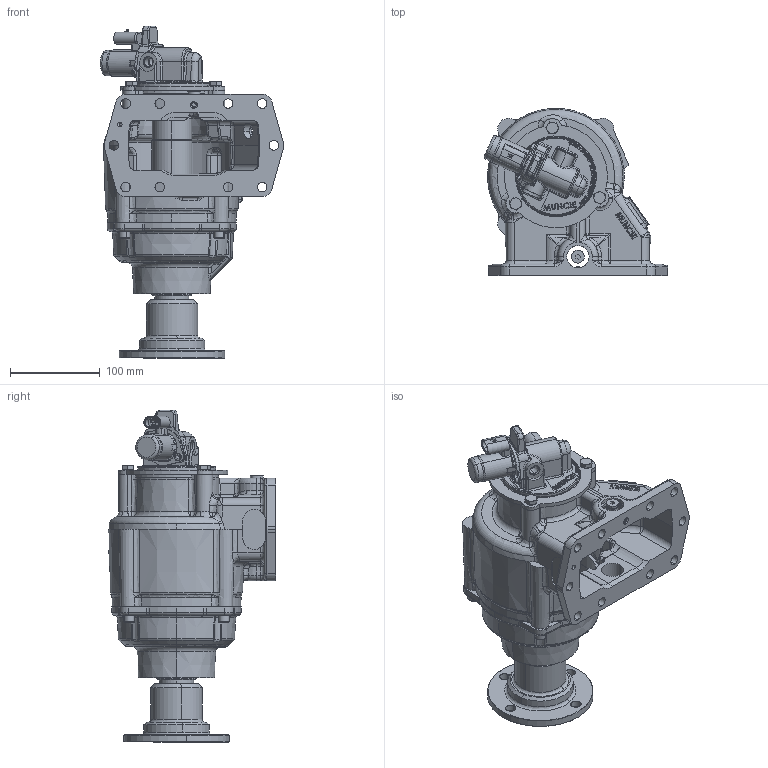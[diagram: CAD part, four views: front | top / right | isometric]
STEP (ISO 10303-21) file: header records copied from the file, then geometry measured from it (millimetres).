
FILE_DESCRIPTION (( 'STEP AP214' ), '1' );
FILE_NAME ('A20-A10XX-HX1X4PX.STEP', '2021-03-10T14:52:07', ( '' ), ( '' ), 'SwSTEP 2.0', 'SolidWorks 2019', '' );
FILE_SCHEMA (( 'AUTOMOTIVE_DESIGN' ));
Length unit declared in the file: millimetre
Products named in the file (2): A20-A10XX-HX1X4PX
Bounding box: 204.08 x 186.1 x 369.59 mm (x, y, z)
Volume: 1921583.9 mm3; surface area: 507936.4 mm2
Topology: 36 solids, 37 shells, 3504 faces, 8731 edges, 5365 vertices
Faces by surface type: plane 1208, cylinder 782, bspline 619, cone 452, torus 390, sphere 53
Entity records: 202756 total; most frequent: CARTESIAN_POINT 84632, ORIENTED_EDGE 17304, DIRECTION 15576, EDGE_CURVE 8652, AXIS2_PLACEMENT_3D 6085, VERTEX_POINT 5365, EDGE_LOOP 3767, UNCERTAINTY_MEASURE_WITH_UNIT 3542
